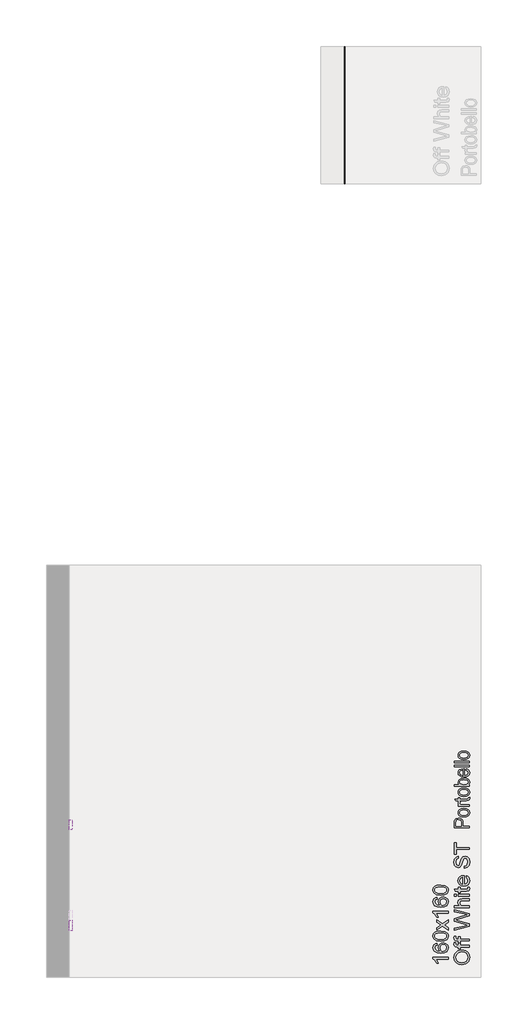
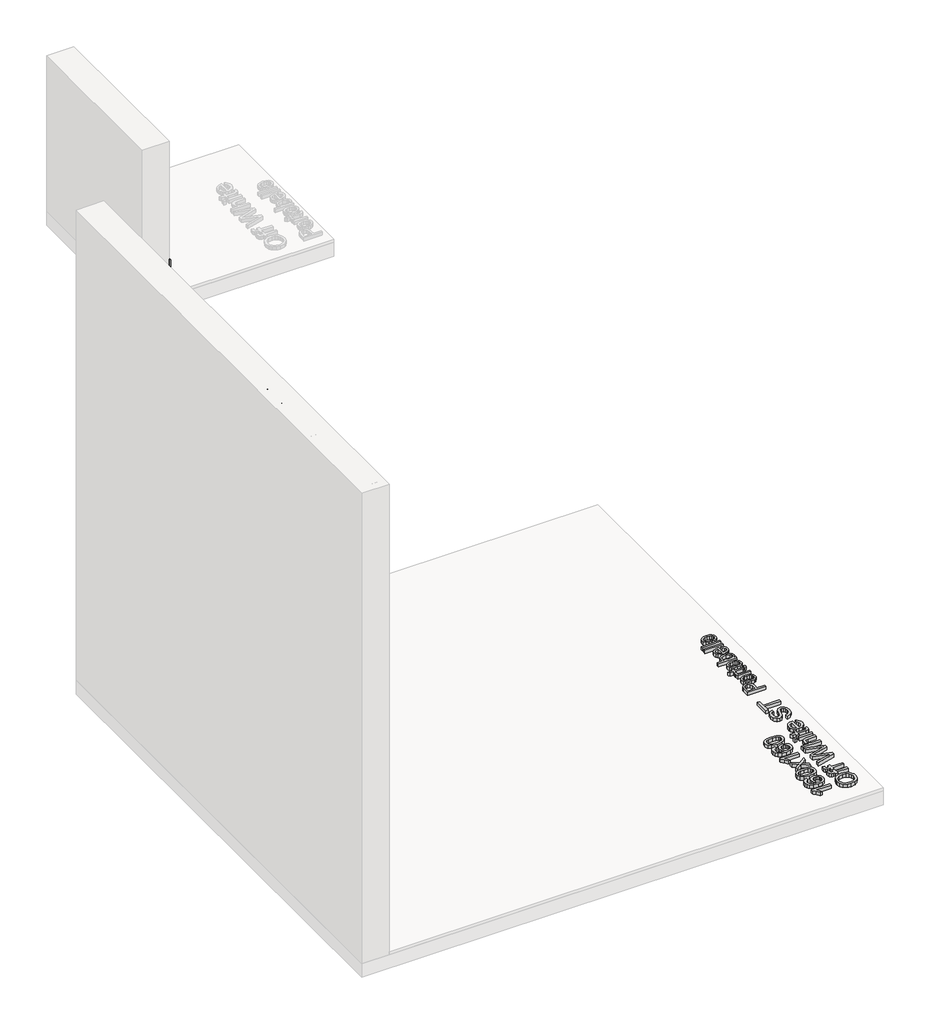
# One storey, part 15 of 19: 6 proxies.
"""IFC4 building model written with IfcOpenShell, lengths in millimetres."""

from ifc_helpers import new_model, si_unit, frame, origin, origin_with_axes, place, context, project, spatial, polyline, outline, extrude, element, save
from ifc_brep_helpers import plane_surface, extruded_surface, spline_curve, advanced_brep

model = new_model("IFC4")

# Units and contexts
model_context = context("Model", 3, world=origin())
ifc_project = project(units=[si_unit("LENGTHUNIT", "METRE", prefix="MILLI")], contexts=[model_context])

# Site, building, storey
site = spatial("IfcSite", under=ifc_project)
building = spatial("IfcBuilding", under=site)
storey = spatial("IfcBuildingStorey", under=building, Name="PORTOBELLO - SHOWROOM", Elevation=0.0)

# Proxies
placement = place(None, origin())
element("IfcBuildingElementProxy", 1, Name="RODAPE KALKS OFF WHITE 20X90 RD NAT RET", ObjectType="RODAPE KALKS OFF WHITE 20X90 RD NAT RET", at=placement, inside=storey, context=model_context, shape_type="AdvancedBrep", body=[
    advanced_brep(
    [(10705.7966975, 15203.6967801, 217.0), (10705.7966975, 15203.6967801, 17.0), (10713.7966975, 15203.6967801, 17.0), (10713.7966975, 15203.6967801, 209.0), (10705.7966975, 16103.6967801, 217.0), (10713.7966975, 16103.6967801, 209.0), (10713.7966975, 16103.6967801, 17.0), (10705.7966975, 16103.6967801, 17.0)],
    [
        (0, 1),
        (1, 2),
        (2, 3),
        (3, 0, spline_curve(3, [(10713.7966975, 15203.6967801, 209.0), (10713.7966975, 15203.6967801, 214.333333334), (10711.130030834, 15203.6967801, 217.0), (10705.7966975, 15203.6967801, 217.0)], [4, 4], [0.0, 0.029527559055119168])),
        (4, 5, spline_curve(3, [(10705.7966975, 16103.6967801, 217.0), (10711.130030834, 16103.6967801, 217.0), (10713.7966975, 16103.6967801, 214.333333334), (10713.7966975, 16103.6967801, 209.0)], [4, 4], [0.0, 0.029527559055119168])),
        (5, 6),
        (6, 7),
        (7, 4),
        (0, 4),
        (7, 1),
        (6, 2),
        (5, 3),
    ],
    [
        plane_surface(frame((10505.7966975, 15203.6967801, 17.0), z_axis=(0.0, -1.0, 0.0), x_axis=(0.0, 0.0, 1.0))),
        plane_surface(frame((10505.7966975, 16103.6967801, 17.0), z_axis=(0.0, 1.0, 0.0), x_axis=(0.0, 0.0, 1.0))),
        plane_surface(frame((10705.7966975, 15203.6967801, 217.0), z_axis=(-1.0, 0.0, 0.0), x_axis=(0.0, 1.0, 0.0))),
        plane_surface(frame((10705.7966975, 15203.6967801, 17.0), z_axis=(0.0, 0.0, -1.0), x_axis=(0.0, 1.0, 0.0))),
        plane_surface(frame((10713.7966975, 15203.6967801, 17.0), z_axis=(1.0, 0.0, 0.0), x_axis=(0.0, 1.0, 0.0))),
        extruded_surface(spline_curve(3, [(10713.7966975, 16103.6967801, 209.0), (10713.7966975, 16103.6967801, 214.333333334), (10711.130030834, 16103.6967801, 217.0), (10705.7966975, 16103.6967801, 217.0)], [4, 4], [0.0, 0.029527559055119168]), (0.0, -900.0, 0.0), 900.0),
    ],
    [
        (0, [[1, 2, 3, 4]]),
        (1, [[5, 6, 7, 8]]),
        (2, [[-1, 9, -8, 10]]),
        (3, [[-2, -10, -7, 11]]),
        (4, [[-3, -11, -6, 12]]),
        (5, [[-4, -12, -5, -9]]),
    ],
),
])
element("IfcBuildingElementProxy", 2, Name="10mm Arial", ObjectType="10mm Arial", at=placement, inside=storey, context=model_context, shape_type="SweptSolid", body=[
    extrude(outline(polyline([(11481.3212014, 10087.4843452), (11459.1072603, 10090.8320713), (11442.3011845, 10100.8752498), (11431.7245771, 10116.2097976), (11428.1990413, 10135.4316319), (11429.8545103, 10148.6079387), (11434.8209172, 10160.4230821), (11442.7487742, 10170.2332686), (11453.2885934, 10177.3947048), (11465.9314713, 10181.7725005), (11480.1685045, 10183.2317658), (11494.5956101, 10181.6958584), (11507.4162976, 10177.0881365), (11517.9745109, 10169.6630515), (11525.6141936, 10159.6750553), (11530.2495068, 10147.9610795), (11531.7946112, 10135.3580555), (11530.0870256, 10121.9794136), (11524.9642688, 10110.0968251), (11516.889259, 10100.3111641), (11506.3249144, 10093.2233043), (11481.3212014, 10087.4843452)]), holes=[polyline([(11481.4438288, 10100.0413839), (11497.1585213, 10102.5521785), (11509.1330803, 10110.0845624), (11516.7114494, 10121.4061308), (11519.2375724, 10135.2844791), (11516.6869239, 10149.3651624), (11509.0349784, 10160.7051249), (11496.6925375, 10168.1823265), (11480.0704026, 10170.674727), (11459.3463836, 10166.4072959), (11445.6243852, 10153.9360962), (11440.7560801, 10135.5052083), (11443.1013278, 10121.9978077), (11450.137071, 10110.5137581), (11462.6542558, 10102.6594775), (11481.4438288, 10100.0413839)])]), origin_with_axes(), (0.0, 0.0, 1.0), 20.0),
    extrude(outline(polyline([(11530.2249813, 10242.8776999), (11469.0094173, 10242.8776999), (11469.0094173, 10231.890291), (11456.4523785, 10231.890291), (11456.4523785, 10242.8776999), (11449.0211622, 10242.8776999), (11438.5487881, 10244.2020751), (11431.0685209, 10250.6277473), (11428.1990413, 10263.2828879), (11429.5724674, 10274.7362807), (11441.3446913, 10272.8968707), (11440.7560801, 10265.6618582), (11442.8407447, 10257.7523953), (11450.6153176, 10255.4347387), (11456.4523785, 10255.4347387), (11456.4523785, 10269.5614073), (11469.0094173, 10269.5614073), (11469.0094173, 10255.4347387), (11530.2249813, 10255.4347387), (11530.2249813, 10242.8776999)])), origin_with_axes(), (0.0, 0.0, 1.0), 20.0),
    extrude(outline(polyline([(11530.2249813, 10202.0673239), (11469.0094173, 10202.0673239), (11469.0094173, 10191.079915), (11456.4523785, 10191.079915), (11456.4523785, 10202.0673239), (11449.0211622, 10202.0673239), (11438.5487881, 10203.3916991), (11431.0685209, 10209.8173713), (11428.1990413, 10222.4725119), (11429.5724674, 10233.9259047), (11441.3446913, 10232.0864947), (11440.7560801, 10224.8514822), (11442.8407447, 10216.9420193), (11450.6153176, 10214.6243627), (11456.4523785, 10214.6243627), (11456.4523785, 10228.7510313), (11469.0094173, 10228.7510313), (11469.0094173, 10214.6243627), (11530.2249813, 10214.6243627), (11530.2249813, 10202.0673239)])), origin_with_axes(), (0.0, 0.0, 1.0), 20.0),
    extrude(outline(polyline([(11530.2249813, 10339.3363591), (11429.7686712, 10311.9414131), (11429.7686712, 10324.8908594), (11495.7912266, 10340.7833616), (11516.1718891, 10345.6884548), (11498.1456713, 10350.9369046), (11429.7686712, 10370.8515833), (11429.7686712, 10389.5154632), (11479.3346386, 10403.9854883), (11516.1718891, 10414.7521681), (11496.3798378, 10419.5101085), (11429.7686712, 10435.5252381), (11429.7686712, 10448.4992098), (11530.2249813, 10421.1287893), (11530.2249813, 10407.6888338), (11452.7245077, 10383.5803003), (11441.908777, 10380.2203115), (11454.9317996, 10376.4433896), (11530.2249813, 10354.4930973), (11530.2249813, 10339.3363591)])), origin_with_axes(), (0.0, 0.0, 1.0), 20.0),
    extrude(outline(polyline([(11530.2249813, 10459.4866187), (11429.7686712, 10459.4866187), (11429.7686712, 10472.0436574), (11466.7040235, 10472.0436574), (11457.8380674, 10481.8354499), (11454.8827487, 10493.895848), (11458.1078475, 10507.9979911), (11467.0228545, 10516.5573789), (11483.5284934, 10519.1325528), (11530.2249813, 10519.1325528), (11530.2249813, 10506.5755141), (11484.8283431, 10506.5755141), (11471.5845913, 10502.577863), (11467.4397875, 10491.2470976), (11470.2356906, 10480.9586645), (11477.8140597, 10474.0915339), (11491.0332861, 10472.0436574), (11530.2249813, 10472.0436574), (11530.2249813, 10459.4866187)])), origin_with_axes(), (0.0, 0.0, 1.0), 20.0),
    extrude(outline(polyline([(11442.3257099, 10536.3984811), (11429.7686712, 10536.3984811), (11429.7686712, 10548.9555199), (11442.3257099, 10548.9555199), (11442.3257099, 10536.3984811)])), origin_with_axes(), (0.0, 0.0, 1.0), 20.0),
    extrude(outline(polyline([(11530.2249813, 10536.3984811), (11456.4523785, 10536.3984811), (11456.4523785, 10548.9555199), (11530.2249813, 10548.9555199), (11530.2249813, 10536.3984811)])), origin_with_axes(), (0.0, 0.0, 1.0), 20.0),
    extrude(outline(polyline([(11519.7526072, 10594.4747854), (11530.5928633, 10596.0444153), (11531.7946112, 10586.6511617), (11529.7099465, 10576.1297366), (11524.2407675, 10570.8812868), (11509.9914716, 10569.3607079), (11469.0094173, 10569.3607079), (11469.0094173, 10559.9429288), (11456.4523785, 10559.9429288), (11456.4523785, 10569.3607079), (11438.5242626, 10569.3607079), (11431.1420973, 10581.9177467), (11456.4523785, 10581.9177467), (11456.4523785, 10594.4747854), (11469.0094173, 10594.4747854), (11469.0094173, 10581.9177467), (11509.6235896, 10581.9177467), (11516.0983127, 10582.5799343), (11518.3914438, 10584.7259126), (11519.2375724, 10589.0056064), (11519.7526072, 10594.4747854)])), origin_with_axes(), (0.0, 0.0, 1.0), 20.0),
    extrude(outline(polyline([(11508.2501635, 10658.6824563), (11509.8197933, 10670.9942404), (11519.096551, 10666.5581967), (11526.0311266, 10659.479534), (11530.35374, 10649.9176678), (11531.7946112, 10638.0320137), (11529.308342, 10623.2983398), (11521.8495346, 10611.9614429), (11509.9025668, 10604.7325617), (11493.9518166, 10602.3229347), (11477.4645718, 10604.7570872), (11465.1343936, 10612.0595448), (11457.4456599, 10623.2431575), (11454.8827487, 10637.3207751), (11457.4395286, 10650.9600001), (11465.1098682, 10661.8585042), (11477.4155209, 10669.004612), (11493.8782402, 10671.3866479), (11497.2627545, 10671.3130715), (11497.2627545, 10614.8799734), (11506.6621395, 10617.0535429), (11513.5721897, 10622.1027233), (11517.8212267, 10629.3898525), (11519.2375724, 10638.2772683), (11516.6133475, 10650.5890524), (11508.2501635, 10658.6824563)]), holes=[polyline([(11484.7057158, 10614.8799734), (11484.7057158, 10658.8296091), (11473.3258994, 10653.8018885), (11468.9113155, 10646.4810368), (11467.4397875, 10637.2717242), (11472.1364143, 10621.8084177), (11477.6270531, 10616.9431783), (11484.7057158, 10614.8799734)])]), origin_with_axes(), (0.0, 0.0, 1.0), 20.0),
    extrude(outline(polyline([(11495.6931247, 10720.0451731), (11495.6931247, 10732.6022119), (11508.2624262, 10736.6489138), (11516.2086773, 10746.5326768), (11519.2375724, 10761.5913131), (11516.9444413, 10774.7124376), (11510.6413964, 10783.1859862), (11502.2168987, 10785.9696267), (11494.3810122, 10783.884962), (11488.6788413, 10775.3500997), (11483.8841127, 10757.0663646), (11477.6914324, 10737.3846778), (11468.3472297, 10726.7038372), (11455.8637674, 10723.1844328), (11441.6512596, 10727.5377031), (11431.6203439, 10740.2541574), (11428.1990413, 10758.8689864), (11431.7797594, 10778.7346141), (11442.3011845, 10791.9783659), (11458.0220084, 10796.9570356), (11458.0220084, 10784.3999968), (11450.5294784, 10782.094603), (11445.1216131, 10777.2876116), (11440.7560801, 10759.3594957), (11445.0725622, 10741.3823289), (11455.4958854, 10735.7414716), (11464.2024259, 10739.7391226), (11471.2167093, 10760.2424125), (11477.5197541, 10782.462485), (11487.6978227, 10794.6148536), (11501.8980677, 10798.5266654), (11516.9199158, 10794.0262424), (11527.8827993, 10781.0767961), (11531.7946112, 10762.0818224), (11527.5762309, 10739.6532835), (11514.8720394, 10725.4653012), (11495.6931247, 10720.0451731)])), origin_with_axes(), (0.0, 0.0, 1.0), 20.0),
    extrude(outline(polyline([(11530.2249813, 10842.4763011), (11442.3257099, 10842.4763011), (11442.3257099, 10809.5140744), (11429.7686712, 10809.5140744), (11429.7686712, 10887.9955667), (11442.3257099, 10887.9955667), (11442.3257099, 10855.0333399), (11530.2249813, 10855.0333399), (11530.2249813, 10842.4763011)])), origin_with_axes(), (0.0, 0.0, 1.0), 20.0),
])
element("IfcBuildingElementProxy", 3, Name="10mm Arial", ObjectType="10mm Arial", at=placement, inside=storey, context=model_context, shape_type="SweptSolid", body=[
    extrude(outline(polyline([(10131.2162385, 2381.1895903), (10118.6591997, 2381.1895903), (10118.6591997, 2459.4748789), (10106.7643485, 2451.0013303), (10093.5451221, 2444.6614972), (10093.5451221, 2456.531823), (10111.9514846, 2468.2795213), (10123.1228346, 2481.6459005), (10131.2162385, 2481.6459005), (10131.2162385, 2381.1895903)])), frame((8905.7966975, 0.0, 0.0), z_axis=(1.0, 0.0, 0.0), x_axis=(0.0, 1.0, 0.0)), (0.0, 0.0, 1.0), 20.0),
    extrude(outline(polyline([(10225.3940292, 2454.9621931), (10212.8369905, 2453.3925633), (10208.07905, 2463.8649374), (10195.4974857, 2469.0888617), (10184.1667203, 2466.0477039), (10175.5950698, 2454.6310993), (10172.0266145, 2432.2516113), (10183.0998625, 2442.2702643), (10196.8218609, 2445.544414), (10208.4224065, 2443.3064652), (10218.1590166, 2436.5926188), (10224.7624985, 2426.3348425), (10226.9636591, 2413.4651041), (10222.8188553, 2396.1378621), (10211.4145134, 2383.8751289), (10194.9579255, 2379.6199605), (10180.7116952, 2382.4403891), (10169.3656014, 2390.901675), (10161.9435821, 2405.837684), (10159.4695757, 2428.082282), (10162.2164279, 2453.0921263), (10170.4569846, 2470.1925077), (10181.7080423, 2478.7825523), (10196.2823007, 2481.6459005), (10207.3003664, 2479.8739355), (10216.1234029, 2474.5580407), (10222.3038205, 2466.1151489), (10225.3940292, 2454.9621931)]), holes=[polyline([(10172.0266145, 2413.6613078), (10174.9328822, 2402.7842635), (10182.6584041, 2394.8870633), (10193.9769068, 2392.1769993), (10202.2634488, 2393.5810822), (10208.7780258, 2397.7933311), (10212.9994717, 2404.415207), (10214.4066203, 2413.0481711), (10213.0178658, 2421.3347131), (10208.8516022, 2427.6530863), (10202.2266606, 2431.653803), (10193.461872, 2432.9873753), (10178.2683456, 2427.6530863), (10173.5870472, 2421.4879972), (10172.0266145, 2413.6613078)])]), frame((8905.7966975, 0.0, 0.0), z_axis=(1.0, 0.0, 0.0), x_axis=(0.0, 1.0, 0.0)), (0.0, 0.0, 1.0), 20.0),
    extrude(outline(polyline([(10237.951068, 2430.608405), (10241.6421507, 2459.5116671), (10252.6050341, 2476.1767215), (10270.9132948, 2481.6459005), (10285.5795236, 2478.4085389), (10295.7085412, 2469.076599), (10301.5946532, 2454.2141664), (10303.8755215, 2430.608405), (10300.221227, 2401.8277703), (10289.2951318, 2385.1259277), (10281.0637721, 2380.9964523), (10270.9132948, 2379.6199605), (10257.8657467, 2382.0111935), (10247.9574583, 2389.1848924), (10240.4526656, 2406.1749092), (10237.951068, 2430.608405)]), holes=[polyline([(10250.5081068, 2430.6329305), (10251.9796347, 2410.880733), (10256.3942187, 2399.4488), (10262.9670437, 2393.9949495), (10270.9132948, 2392.1769993), (10278.8595459, 2394.0010808), (10285.4323708, 2399.4733255), (10289.8469548, 2410.9113899), (10291.3184828, 2430.6329305), (10289.8960057, 2449.9406039), (10285.6285746, 2461.4614417), (10279.0680123, 2467.1820067), (10270.766142, 2469.0888617), (10262.90573, 2467.4088673), (10256.5904224, 2462.3688839), (10252.0286857, 2450.1306762), (10250.5081068, 2430.6329305)])]), frame((8905.7966975, 0.0, 0.0), z_axis=(1.0, 0.0, 0.0), x_axis=(0.0, 1.0, 0.0)), (0.0, 0.0, 1.0), 20.0),
    extrude(outline(polyline([(10310.1540409, 2381.1895903), (10336.9849011, 2418.2966209), (10311.7236708, 2454.9621931), (10326.7823071, 2454.9621931), (10338.9714639, 2437.2793319), (10344.6858975, 2428.9651988), (10349.6400417, 2435.7832784), (10363.5214557, 2454.9621931), (10378.6291429, 2454.9621931), (10352.0925884, 2418.2720955), (10377.6481243, 2381.1895903), (10362.5649625, 2381.1895903), (10347.1629696, 2403.5077647), (10344.3670665, 2407.6035176), (10325.2617282, 2381.1895903), (10310.1540409, 2381.1895903)])), frame((8905.7966975, 0.0, 0.0), z_axis=(1.0, 0.0, 0.0), x_axis=(0.0, 1.0, 0.0)), (0.0, 0.0, 1.0), 20.0),
    extrude(outline(polyline([(10432.5851689, 2381.1895903), (10420.0281301, 2381.1895903), (10420.0281301, 2459.4748789), (10408.133279, 2451.0013303), (10394.9140526, 2444.6614972), (10394.9140526, 2456.531823), (10413.3204151, 2468.2795213), (10424.491765, 2481.6459005), (10432.5851689, 2481.6459005), (10432.5851689, 2381.1895903)])), frame((8905.7966975, 0.0, 0.0), z_axis=(1.0, 0.0, 0.0), x_axis=(0.0, 1.0, 0.0)), (0.0, 0.0, 1.0), 20.0),
    extrude(outline(polyline([(10526.7629597, 2454.9621931), (10514.2059209, 2453.3925633), (10509.4479804, 2463.8649374), (10496.8664162, 2469.0888617), (10485.5356507, 2466.0477039), (10476.9640003, 2454.6310993), (10473.3955449, 2432.2516113), (10484.468793, 2442.2702643), (10498.1907914, 2445.544414), (10509.791337, 2443.3064652), (10519.5279471, 2436.5926188), (10526.1314289, 2426.3348425), (10528.3325895, 2413.4651041), (10524.1877857, 2396.1378621), (10512.7834439, 2383.8751289), (10496.3268559, 2379.6199605), (10482.0806257, 2382.4403891), (10470.7345318, 2390.901675), (10463.3125126, 2405.837684), (10460.8385061, 2428.082282), (10463.5853584, 2453.0921263), (10471.8259151, 2470.1925077), (10483.0769727, 2478.7825523), (10497.6512311, 2481.6459005), (10508.6692969, 2479.8739355), (10517.4923334, 2474.5580407), (10523.6727509, 2466.1151489), (10526.7629597, 2454.9621931)]), holes=[polyline([(10473.3955449, 2413.6613078), (10476.3018127, 2402.7842635), (10484.0273346, 2394.8870633), (10495.3458373, 2392.1769993), (10503.6323792, 2393.5810822), (10510.1469562, 2397.7933311), (10514.3684021, 2404.415207), (10515.7755507, 2413.0481711), (10514.3867962, 2421.3347131), (10510.2205326, 2427.6530863), (10503.595591, 2431.653803), (10494.8308025, 2432.9873753), (10479.6372761, 2427.6530863), (10474.9559777, 2421.4879972), (10473.3955449, 2413.6613078)])]), frame((8905.7966975, 0.0, 0.0), z_axis=(1.0, 0.0, 0.0), x_axis=(0.0, 1.0, 0.0)), (0.0, 0.0, 1.0), 20.0),
    extrude(outline(polyline([(10539.3199984, 2430.608405), (10543.0110811, 2459.5116671), (10553.9739646, 2476.1767215), (10572.2822252, 2481.6459005), (10586.9484541, 2478.4085389), (10597.0774717, 2469.076599), (10602.9635836, 2454.2141664), (10605.244452, 2430.608405), (10601.5901575, 2401.8277703), (10590.6640622, 2385.1259277), (10582.4327026, 2380.9964523), (10572.2822252, 2379.6199605), (10559.2346771, 2382.0111935), (10549.3263887, 2389.1848924), (10541.821596, 2406.1749092), (10539.3199984, 2430.608405)]), holes=[polyline([(10551.8770372, 2430.6329305), (10553.3485652, 2410.880733), (10557.7631491, 2399.4488), (10564.3359741, 2393.9949495), (10572.2822252, 2392.1769993), (10580.2284763, 2394.0010808), (10586.8013013, 2399.4733255), (10591.2158852, 2410.9113899), (10592.6874132, 2430.6329305), (10591.2649362, 2449.9406039), (10586.997505, 2461.4614417), (10580.4369428, 2467.1820067), (10572.1350724, 2469.0888617), (10564.2746604, 2467.4088673), (10557.9593529, 2462.3688839), (10553.3976161, 2450.1306762), (10551.8770372, 2430.6329305)])]), frame((8905.7966975, 0.0, 0.0), z_axis=(1.0, 0.0, 0.0), x_axis=(0.0, 1.0, 0.0)), (0.0, 0.0, 1.0), 20.0),
])
element("IfcBuildingElementProxy", 4, Name="10mm Arial", ObjectType="10mm Arial", at=placement, inside=storey, context=model_context, shape_type="SweptSolid", body=[
    extrude(outline(polyline([(11390.2249813, 10134.5732405), (11390.2249813, 10122.0162018), (11311.9396927, 10122.0162018), (11320.4132414, 10110.1213506), (11326.7530744, 10096.9021242), (11314.8827487, 10096.9021242), (11303.1350503, 10115.3084867), (11289.7686712, 10126.4798366), (11289.7686712, 10134.5732405), (11390.2249813, 10134.5732405)])), origin_with_axes(), (0.0, 0.0, 1.0), 20.0),
    extrude(outline(polyline([(11316.4523785, 10228.7510313), (11318.0220084, 10216.1939925), (11307.5496343, 10211.4360521), (11302.3257099, 10198.8544878), (11305.3668678, 10187.5237224), (11316.7834723, 10178.9520719), (11339.1629604, 10175.3836165), (11329.1443074, 10186.4568646), (11325.8701576, 10200.178863), (11328.1081064, 10211.7794086), (11334.8219528, 10221.5160187), (11345.0797291, 10228.1195005), (11357.9494676, 10230.3206612), (11375.2767096, 10226.1758573), (11387.5394427, 10214.7715155), (11391.7946112, 10198.3149276), (11388.9741825, 10184.0686973), (11380.5128966, 10172.7226034), (11365.5768876, 10165.3005842), (11343.3322897, 10162.8265778), (11318.3224454, 10165.57343), (11301.2220639, 10173.8139867), (11292.6320194, 10185.0650444), (11289.7686712, 10199.6393028), (11291.5406361, 10210.6573685), (11296.8565309, 10219.480405), (11305.2994227, 10225.6608225), (11316.4523785, 10228.7510313)]), holes=[polyline([(11357.7532639, 10175.3836165), (11368.6303082, 10178.2898843), (11376.5275084, 10186.0154062), (11379.2375724, 10197.3339089), (11377.8334894, 10205.6204509), (11373.6212406, 10212.1350279), (11366.9993647, 10216.3564738), (11358.3664005, 10217.7636224), (11350.0798586, 10216.3748679), (11343.7614853, 10212.2086043), (11339.7607686, 10205.5836627), (11338.4271964, 10196.8188741), (11343.7614853, 10181.6253477), (11349.9265744, 10176.9440493), (11357.7532639, 10175.3836165)])]), origin_with_axes(), (0.0, 0.0, 1.0), 20.0),
    extrude(outline(polyline([(11340.8061666, 10241.3080701), (11311.9029045, 10244.9991528), (11295.2378502, 10255.9620362), (11289.7686712, 10274.2702968), (11293.0060327, 10288.9365257), (11302.3379727, 10299.0655433), (11317.2004053, 10304.9516552), (11340.8061666, 10307.2325236), (11369.5868014, 10303.5782291), (11386.288644, 10292.6521339), (11390.4181194, 10284.4207742), (11391.7946112, 10274.2702968), (11389.4033782, 10261.2227487), (11382.2296793, 10251.3144603), (11365.2396625, 10243.8096676), (11340.8061666, 10241.3080701)]), holes=[polyline([(11340.7816412, 10253.8651088), (11360.5338386, 10255.3366368), (11371.9657716, 10259.7512208), (11377.4196222, 10266.3240457), (11379.2375724, 10274.2702968), (11377.4134908, 10282.2165479), (11371.9412462, 10288.7893729), (11360.5031818, 10293.2039569), (11340.7816412, 10294.6754848), (11321.4739678, 10293.2530078), (11309.95313, 10288.9855766), (11304.2325649, 10282.4250144), (11302.3257099, 10274.123144), (11304.0057044, 10266.2627321), (11309.0456877, 10259.9474245), (11321.2838954, 10255.3856878), (11340.7816412, 10253.8651088)])]), origin_with_axes(), (0.0, 0.0, 1.0), 20.0),
    extrude(outline(polyline([(11390.2249813, 10313.511043), (11353.1179507, 10340.3419032), (11316.4523785, 10315.0806728), (11316.4523785, 10330.1393092), (11334.1352398, 10342.328466), (11342.4493729, 10348.0428996), (11335.6312932, 10352.9970438), (11316.4523785, 10366.8784578), (11316.4523785, 10381.986145), (11353.1424762, 10355.4495904), (11390.2249813, 10381.0051264), (11390.2249813, 10365.9219646), (11367.9068069, 10350.5199717), (11363.8110541, 10347.7240685), (11390.2249813, 10328.6187303), (11390.2249813, 10313.511043)])), origin_with_axes(), (0.0, 0.0, 1.0), 20.0),
    extrude(outline(polyline([(11390.2249813, 10435.942171), (11390.2249813, 10423.3851322), (11311.9396927, 10423.3851322), (11320.4132414, 10411.490281), (11326.7530744, 10398.2710547), (11314.8827487, 10398.2710547), (11303.1350503, 10416.6774172), (11289.7686712, 10427.8487671), (11289.7686712, 10435.942171), (11390.2249813, 10435.942171)])), origin_with_axes(), (0.0, 0.0, 1.0), 20.0),
    extrude(outline(polyline([(11316.4523785, 10530.1199618), (11318.0220084, 10517.562923), (11307.5496343, 10512.8049825), (11302.3257099, 10500.2234183), (11305.3668678, 10488.8926528), (11316.7834723, 10480.3210023), (11339.1629604, 10476.752547), (11329.1443074, 10487.825795), (11325.8701576, 10501.5477935), (11328.1081064, 10513.148339), (11334.8219528, 10522.8849492), (11345.0797291, 10529.488431), (11357.9494676, 10531.6895916), (11375.2767096, 10527.5447878), (11387.5394427, 10516.1404459), (11391.7946112, 10499.683858), (11388.9741825, 10485.4376278), (11380.5128966, 10474.0915339), (11365.5768876, 10466.6695146), (11343.3322897, 10464.1955082), (11318.3224454, 10466.9423605), (11301.2220639, 10475.1829171), (11292.6320194, 10486.4339748), (11289.7686712, 10501.0082332), (11291.5406361, 10512.026299), (11296.8565309, 10520.8493355), (11305.2994227, 10527.029753), (11316.4523785, 10530.1199618)]), holes=[polyline([(11357.7532639, 10476.752547), (11368.6303082, 10479.6588148), (11376.5275084, 10487.3843366), (11379.2375724, 10498.7028394), (11377.8334894, 10506.9893813), (11373.6212406, 10513.5039583), (11366.9993647, 10517.7254042), (11358.3664005, 10519.1325528), (11350.0798586, 10517.7437983), (11343.7614853, 10513.5775347), (11339.7607686, 10506.9525931), (11338.4271964, 10498.1878046), (11343.7614853, 10482.9942782), (11349.9265744, 10478.3129798), (11357.7532639, 10476.752547)])]), origin_with_axes(), (0.0, 0.0, 1.0), 20.0),
    extrude(outline(polyline([(11340.8061666, 10542.6770005), (11311.9029045, 10546.3680832), (11295.2378502, 10557.3309667), (11289.7686712, 10575.6392273), (11293.0060327, 10590.3054562), (11302.3379727, 10600.4344738), (11317.2004053, 10606.3205857), (11340.8061666, 10608.6014541), (11369.5868014, 10604.9471596), (11386.288644, 10594.0210643), (11390.4181194, 10585.7897047), (11391.7946112, 10575.6392273), (11389.4033782, 10562.5916792), (11382.2296793, 10552.6833908), (11365.2396625, 10545.1785981), (11340.8061666, 10542.6770005)]), holes=[polyline([(11340.7816412, 10555.2340393), (11360.5338386, 10556.7055673), (11371.9657716, 10561.1201512), (11377.4196222, 10567.6929762), (11379.2375724, 10575.6392273), (11377.4134908, 10583.5854784), (11371.9412462, 10590.1583034), (11360.5031818, 10594.5728873), (11340.7816412, 10596.0444153), (11321.4739678, 10594.6219382), (11309.95313, 10590.3545071), (11304.2325649, 10583.7939449), (11302.3257099, 10575.4920745), (11304.0057044, 10567.6316625), (11309.0456877, 10561.3163549), (11321.2838954, 10556.7546182), (11340.7816412, 10555.2340393)])]), origin_with_axes(), (0.0, 0.0, 1.0), 20.0),
])
element("IfcBuildingElementProxy", 5, Name="10mm Arial Narrow", ObjectType="10mm Arial Narrow", at=placement, inside=storey, context=model_context, shape_type="SweptSolid", body=[
    extrude(outline(polyline([(11530.2249813, 10984.5071343), (11429.5063776, 10984.5071343), (11429.5063776, 11015.804019), (11431.3846983, 11032.0997205), (11440.8651415, 11043.5727066), (11457.8842503, 11047.8623851), (11469.9600758, 11046.0760767), (11479.5864696, 11040.7171515), (11485.887728, 11030.9733626), (11487.9881475, 11016.0324634), (11487.9881475, 10994.254096), (11530.2249813, 10994.254096), (11530.2249813, 10984.5071343)]), holes=[polyline([(11476.6166922, 10994.254096), (11476.6166922, 11017.2254509), (11472.085878, 11033.0896463), (11458.4172873, 11038.1154234), (11448.2515108, 11035.6406089), (11442.451561, 11029.6629801), (11440.8778328, 11016.9970065), (11440.8778328, 10994.254096), (11476.6166922, 10994.254096)])]), origin_with_axes(), (0.0, 0.0, 1.0), 20.0),
    extrude(outline(polyline([(11493.6738751, 11055.9848531), (11477.0830996, 11057.939322), (11465.1310147, 11063.8027286), (11457.9064602, 11072.6612953), (11455.4982753, 11083.6012445), (11457.9064602, 11094.4142801), (11465.1310147, 11103.2982295), (11476.8927292, 11109.2377842), (11492.9123937, 11111.2176358), (11510.0742803, 11109.2726855), (11522.2167355, 11103.4378344), (11529.4412901, 11094.5887862), (11531.8494749, 11083.6012445), (11529.4349444, 11072.7406163), (11522.1913528, 11063.8661854), (11510.2329223, 11057.9551862), (11493.6738751, 11055.9848531)]), holes=[polyline([(11493.6484924, 11065.7318148), (11506.2002438, 11067.0358516), (11515.0715019, 11070.9479622), (11520.3447604, 11076.789159), (11522.1025133, 11083.8804543), (11520.3288962, 11090.6005275), (11515.0080451, 11096.2926008), (11506.1209228, 11100.1761558), (11493.6484924, 11101.4706742), (11481.1348151, 11100.1666373), (11472.2762484, 11096.2545267), (11467.0029898, 11090.41333), (11465.245237, 11083.3220346), (11467.0125083, 11076.5543689), (11472.3143224, 11070.8718141), (11481.1824077, 11067.0168146), (11493.6484924, 11065.7318148)])]), origin_with_axes(), (0.0, 0.0, 1.0), 20.0),
    extrude(outline(polyline([(11522.1025133, 11182.6953546), (11531.8494749, 11184.3198482), (11531.8494749, 11176.9588616), (11529.7300184, 11168.6840972), (11523.9300686, 11164.3690361), (11509.2842434, 11163.2014313), (11466.8697306, 11163.2014313), (11466.8697306, 11155.0789633), (11463.6207433, 11155.0789633), (11468.4942242, 11153.4544697), (11466.8697306, 11145.8904213), (11469.1922488, 11139.8112616), (11475.6775319, 11135.9403979), (11491.0848384, 11133.9605463), (11530.2249813, 11133.9605463), (11530.2249813, 11124.2135847), (11457.1227689, 11124.2135847), (11457.1227689, 11133.9605463), (11466.8189651, 11133.9605463), (11457.731954, 11140.2046937), (11455.4982753, 11146.6011372), (11457.1227689, 11155.0789633), (11457.1227689, 11163.2014313), (11440.8778328, 11163.2014313), (11432.7553648, 11172.948393), (11457.1227689, 11172.948393), (11457.1227689, 11182.6953546), (11466.8697306, 11182.6953546), (11466.8697306, 11172.948393), (11511.5179221, 11172.948393), (11519.5134766, 11173.8114052), (11522.1025133, 11178.4310589), (11522.1025133, 11182.6953546)])), origin_with_axes(), (0.0, 0.0, 1.0), 20.0),
    extrude(outline(polyline([(11493.6738751, 11189.193329), (11477.0830996, 11191.1477979), (11465.1310147, 11197.0112045), (11457.9064602, 11205.8697713), (11455.4982753, 11216.8097204), (11457.9064602, 11227.622756), (11465.1310147, 11236.5067054), (11476.8927292, 11242.4462602), (11492.9123937, 11244.4261118), (11510.0742803, 11242.4811614), (11522.2167355, 11236.6463103), (11529.4412901, 11227.7972621), (11531.8494749, 11216.8097204), (11529.4349444, 11205.9490922), (11522.1913528, 11197.0746613), (11510.2329223, 11191.1636621), (11493.6738751, 11189.193329)]), holes=[polyline([(11493.6484924, 11198.9402907), (11506.2002438, 11200.2443276), (11515.0715019, 11204.1564381), (11520.3447604, 11209.9976349), (11522.1025133, 11217.0889302), (11520.3288962, 11223.8090034), (11515.0080451, 11229.5010767), (11506.1209228, 11233.3846318), (11493.6484924, 11234.6791501), (11481.1348151, 11233.3751132), (11472.2762484, 11229.4630027), (11467.0029898, 11223.6218059), (11465.245237, 11216.5305106), (11467.0125083, 11209.7628448), (11472.3143224, 11204.08029), (11481.1824077, 11200.2252905), (11493.6484924, 11198.9402907)])]), origin_with_axes(), (0.0, 0.0, 1.0), 20.0),
    extrude(outline(polyline([(11530.2249813, 11267.1690223), (11530.2249813, 11257.4220606), (11429.5063776, 11257.4220606), (11429.5063776, 11267.1690223), (11464.9152617, 11267.1690223), (11457.8334849, 11274.568083), (11455.4982753, 11283.7693163), (11459.6991142, 11296.651043), (11472.4285446, 11305.9284245), (11493.1154554, 11309.4058561), (11509.5697989, 11307.4735971), (11521.772538, 11301.6768201), (11529.3302407, 11293.3036978), (11531.8494749, 11283.6424028), (11529.2350555, 11274.3015645), (11521.4679455, 11267.1690223), (11530.2249813, 11267.1690223)]), holes=[polyline([(11493.1154554, 11267.1690223), (11510.3630087, 11269.2504047), (11519.0946618, 11275.139194), (11522.1025133, 11283.5916374), (11520.313032, 11289.534365), (11514.9445883, 11294.7727223), (11493.5215788, 11299.6588945), (11472.085878, 11294.9504013), (11466.9553972, 11289.7056983), (11465.245237, 11283.3885757), (11467.0347182, 11277.4109468), (11472.4031619, 11272.1186512), (11493.1154554, 11267.1690223)])]), origin_with_axes(), (0.0, 0.0, 1.0), 20.0),
    extrude(outline(polyline([(11507.4820708, 11361.3896516), (11509.1065644, 11371.1366132), (11518.993131, 11367.4370829), (11526.1129819, 11361.618096), (11530.4153517, 11353.9144427), (11531.8494749, 11344.5609131), (11529.4349444, 11332.9673591), (11522.1913528, 11323.8232369), (11510.3852185, 11317.8836821), (11494.2830602, 11315.9038305), (11477.6161365, 11317.8932006), (11465.4356073, 11323.861311), (11457.9826083, 11332.8753468), (11455.4982753, 11344.0024934), (11457.8969416, 11354.6854426), (11465.0929407, 11363.43296), (11476.8324453, 11369.267811), (11492.8616283, 11371.2127614), (11496.1106155, 11371.1366132), (11496.1106155, 11325.6507922), (11515.5537734, 11331.6538037), (11520.4653283, 11337.58384), (11522.1025133, 11344.6878267), (11518.4474026, 11354.8662944), (11507.4820708, 11361.3896516)]), holes=[polyline([(11486.3636539, 11326.3107427), (11486.3636539, 11361.3896516), (11472.0985694, 11357.1253559), (11466.9585701, 11351.3000233), (11465.245237, 11344.0786416), (11470.9563473, 11331.8695568), (11486.3636539, 11326.3107427)])]), origin_with_axes(), (0.0, 0.0, 1.0), 20.0),
    extrude(outline(polyline([(11530.2249813, 11384.1325621), (11429.5063776, 11384.1325621), (11429.5063776, 11393.8795238), (11530.2249813, 11393.8795238), (11530.2249813, 11384.1325621)])), origin_with_axes(), (0.0, 0.0, 1.0), 20.0),
    extrude(outline(polyline([(11530.2249813, 11410.1244599), (11429.5063776, 11410.1244599), (11429.5063776, 11419.8714215), (11530.2249813, 11419.8714215), (11530.2249813, 11410.1244599)])), origin_with_axes(), (0.0, 0.0, 1.0), 20.0),
    extrude(outline(polyline([(11493.6738751, 11431.2428768), (11477.0830996, 11433.1973456), (11465.1310147, 11439.0607523), (11457.9064602, 11447.919319), (11455.4982753, 11458.8592681), (11457.9064602, 11469.6723037), (11465.1310147, 11478.5562531), (11476.8927292, 11484.4958079), (11492.9123937, 11486.4756595), (11510.0742803, 11484.5307091), (11522.2167355, 11478.6958581), (11529.4412901, 11469.8468099), (11531.8494749, 11458.8592681), (11529.4349444, 11447.99864), (11522.1913528, 11439.1242091), (11510.2329223, 11433.2132098), (11493.6738751, 11431.2428768)]), holes=[polyline([(11493.6484924, 11440.9898384), (11506.2002438, 11442.2938753), (11515.0715019, 11446.2059859), (11520.3447604, 11452.0471826), (11522.1025133, 11459.138478), (11520.3288962, 11465.8585511), (11515.0080451, 11471.5506244), (11506.1209228, 11475.4341795), (11493.6484924, 11476.7286978), (11481.1348151, 11475.424661), (11472.2762484, 11471.5125504), (11467.0029898, 11465.6713536), (11465.245237, 11458.5800583), (11467.0125083, 11451.8123925), (11472.3143224, 11446.1298377), (11481.1824077, 11442.2748383), (11493.6484924, 11440.9898384)])]), origin_with_axes(), (0.0, 0.0, 1.0), 20.0),
])
element("IfcBuildingElementProxy", 6, Name="10mm Arial Narrow", ObjectType="10mm Arial Narrow", at=placement, inside=storey, context=model_context, shape_type="SweptSolid", body=[
    extrude(outline(polyline([(10972.6220562, 2516.1895903), (10972.6220562, 2616.9081941), (11003.9189409, 2616.9081941), (11020.2146424, 2615.0298734), (11031.6876285, 2605.5494302), (11035.9773069, 2588.5303214), (11034.1909985, 2576.4544958), (11028.8320733, 2566.8281021), (11019.0882845, 2560.5268436), (11004.1473853, 2558.4264242), (10982.3690178, 2558.4264242), (10982.3690178, 2516.1895903), (10972.6220562, 2516.1895903)]), holes=[polyline([(10982.3690178, 2569.7978794), (11005.3403728, 2569.7978794), (11021.2045682, 2574.3286936), (11026.2303453, 2587.9972844), (11023.7555308, 2598.1630608), (11017.777902, 2603.9630106), (11005.1119283, 2605.5367388), (10982.3690178, 2605.5367388), (10982.3690178, 2569.7978794)])]), frame((8905.7966975, 0.0, 0.0), z_axis=(1.0, 0.0, 0.0), x_axis=(0.0, 1.0, 0.0)), (0.0, 0.0, 1.0), 20.0),
    extrude(outline(polyline([(11044.099775, 2552.7406965), (11046.0542438, 2569.3314721), (11051.9176505, 2581.2835569), (11060.7762172, 2588.5081115), (11071.7161663, 2590.9162964), (11082.5292019, 2588.5081115), (11091.4131513, 2581.2835569), (11097.3527061, 2569.5218424), (11099.3325577, 2553.5021779), (11097.3876073, 2536.3402913), (11091.5527562, 2524.1978362), (11082.703708, 2516.9732816), (11071.7161663, 2514.5650967), (11060.8555381, 2516.9796273), (11051.9811072, 2524.2232189), (11046.070108, 2536.1816494), (11044.099775, 2552.7406965)]), holes=[polyline([(11053.8467366, 2552.7660793), (11055.1507735, 2540.2143279), (11059.0628841, 2531.3430698), (11064.9040808, 2526.0698112), (11071.9953762, 2524.3120584), (11078.7154493, 2526.0856754), (11084.4075226, 2531.4065266), (11088.2910777, 2540.2936488), (11089.585596, 2552.7660793), (11088.2815591, 2565.2797566), (11084.3694486, 2574.1383233), (11078.5282518, 2579.4115818), (11071.4369565, 2581.1693347), (11064.6692907, 2579.4020633), (11058.9867359, 2574.1002492), (11055.1317364, 2565.232164), (11053.8467366, 2552.7660793)])]), frame((8905.7966975, 0.0, 0.0), z_axis=(1.0, 0.0, 0.0), x_axis=(0.0, 1.0, 0.0)), (0.0, 0.0, 1.0), 20.0),
    extrude(outline(polyline([(11170.8102765, 2524.3120584), (11172.4347701, 2514.5650967), (11165.0737834, 2514.5650967), (11156.7990191, 2516.6845532), (11152.4839579, 2522.4845031), (11151.3163532, 2537.1303283), (11151.3163532, 2579.5448411), (11143.1938851, 2579.5448411), (11143.1938851, 2582.7938283), (11141.5693915, 2577.9203475), (11134.0053431, 2579.5448411), (11127.9261835, 2577.2223229), (11124.0553198, 2570.7370398), (11122.0754682, 2555.3297332), (11122.0754682, 2516.1895903), (11112.3285065, 2516.1895903), (11112.3285065, 2589.2918027), (11122.0754682, 2589.2918027), (11122.0754682, 2579.5956065), (11128.3196155, 2588.6826176), (11134.7160591, 2590.9162964), (11143.1938851, 2589.2918027), (11151.3163532, 2589.2918027), (11151.3163532, 2605.5367388), (11161.0633148, 2613.6592069), (11161.0633148, 2589.2918027), (11170.8102765, 2589.2918027), (11170.8102765, 2579.5448411), (11161.0633148, 2579.5448411), (11161.0633148, 2534.8966496), (11161.926327, 2526.9010951), (11166.5459807, 2524.3120584), (11170.8102765, 2524.3120584)])), frame((8905.7966975, 0.0, 0.0), z_axis=(1.0, 0.0, 0.0), x_axis=(0.0, 1.0, 0.0)), (0.0, 0.0, 1.0), 20.0),
    extrude(outline(polyline([(11177.3082509, 2552.7406965), (11179.2627198, 2569.3314721), (11185.1261264, 2581.2835569), (11193.9846931, 2588.5081115), (11204.9246422, 2590.9162964), (11215.7376778, 2588.5081115), (11224.6216273, 2581.2835569), (11230.561182, 2569.5218424), (11232.5410336, 2553.5021779), (11230.5960832, 2536.3402913), (11224.7612322, 2524.1978362), (11215.912184, 2516.9732816), (11204.9246422, 2514.5650967), (11194.0640141, 2516.9796273), (11185.1895832, 2524.2232189), (11179.278584, 2536.1816494), (11177.3082509, 2552.7406965)]), holes=[polyline([(11187.0552125, 2552.7660793), (11188.3592494, 2540.2143279), (11192.27136, 2531.3430698), (11198.1125567, 2526.0698112), (11205.2038521, 2524.3120584), (11211.9239253, 2526.0856754), (11217.6159986, 2531.4065266), (11221.4995536, 2540.2936488), (11222.7940719, 2552.7660793), (11221.4900351, 2565.2797566), (11217.5779245, 2574.1383233), (11211.7367277, 2579.4115818), (11204.6454324, 2581.1693347), (11197.8777666, 2579.4020633), (11192.1952119, 2574.1002492), (11188.3402124, 2565.232164), (11187.0552125, 2552.7660793)])]), frame((8905.7966975, 0.0, 0.0), z_axis=(1.0, 0.0, 0.0), x_axis=(0.0, 1.0, 0.0)), (0.0, 0.0, 1.0), 20.0),
    extrude(outline(polyline([(11255.2839441, 2516.1895903), (11245.5369825, 2516.1895903), (11245.5369825, 2616.9081941), (11255.2839441, 2616.9081941), (11255.2839441, 2581.49931), (11262.6830049, 2588.5810868), (11271.8842382, 2590.9162964), (11284.7659649, 2586.7154574), (11294.0433463, 2573.986027), (11297.520778, 2553.2991162), (11295.588519, 2536.8447728), (11289.791742, 2524.6420337), (11281.4186196, 2517.084331), (11271.7573246, 2514.5650967), (11262.4164864, 2517.1795161), (11255.2839441, 2524.9466262), (11255.2839441, 2516.1895903)]), holes=[polyline([(11255.2839441, 2553.2991162), (11257.3653266, 2536.051563), (11263.2541159, 2527.3199098), (11271.7065592, 2524.3120584), (11277.6492868, 2526.1015396), (11282.8876441, 2531.4699834), (11287.7738163, 2552.8929928), (11283.0653231, 2574.3286936), (11277.8206201, 2579.4591744), (11271.5034975, 2581.1693347), (11265.5258687, 2579.3798535), (11260.2335731, 2574.0114097), (11255.2839441, 2553.2991162)])]), frame((8905.7966975, 0.0, 0.0), z_axis=(1.0, 0.0, 0.0), x_axis=(0.0, 1.0, 0.0)), (0.0, 0.0, 1.0), 20.0),
    extrude(outline(polyline([(11349.5045734, 2538.9325009), (11359.2515351, 2537.3080073), (11355.5520047, 2527.4214407), (11349.7330179, 2520.3015898), (11342.0293646, 2515.99922), (11332.675835, 2514.5650967), (11321.082281, 2516.9796273), (11311.9381587, 2524.2232189), (11305.998604, 2536.0293531), (11304.0187524, 2552.1315114), (11306.0081225, 2568.7984351), (11311.9762328, 2580.9789644), (11320.9902686, 2588.4319634), (11332.1174153, 2590.9162964), (11342.8003645, 2588.51763), (11351.5478818, 2581.321631), (11357.3827329, 2569.5821264), (11359.3276832, 2553.5529433), (11359.2515351, 2550.3039561), (11313.765714, 2550.3039561), (11319.7687256, 2530.8607982), (11325.6987618, 2525.9492434), (11332.8027485, 2524.3120584), (11342.9812163, 2527.967169), (11349.5045734, 2538.9325009)]), holes=[polyline([(11314.4256646, 2560.0509178), (11349.5045734, 2560.0509178), (11345.2402777, 2574.3160023), (11339.4149452, 2579.4560016), (11332.1935634, 2581.1693347), (11319.9844786, 2575.4582244), (11314.4256646, 2560.0509178)])]), frame((8905.7966975, 0.0, 0.0), z_axis=(1.0, 0.0, 0.0), x_axis=(0.0, 1.0, 0.0)), (0.0, 0.0, 1.0), 20.0),
    extrude(outline(polyline([(8925.7966975, 11381.9944456), (8925.7966975, 11372.247484), (8905.7966975, 11372.247484), (8905.7966975, 11381.9944456), (8925.7966975, 11381.9944456)])), frame((0.0, 0.0, 2516.1895903), z_axis=(0.0, 0.0, 1.0), x_axis=(1.0, 0.0, 0.0)), (0.0, 0.0, 1.0), 100.7186038),
    extrude(outline(polyline([(8925.7966975, 11407.9863434), (8925.7966975, 11398.2393817), (8905.7966975, 11398.2393817), (8905.7966975, 11407.9863434), (8925.7966975, 11407.9863434)])), frame((0.0, 0.0, 2516.1895903), z_axis=(0.0, 0.0, 1.0), x_axis=(1.0, 0.0, 0.0)), (0.0, 0.0, 1.0), 100.7186038),
    extrude(outline(polyline([(11419.3577986, 2552.7406965), (11421.3122675, 2569.3314721), (11427.1756741, 2581.2835569), (11436.0342408, 2588.5081115), (11446.97419, 2590.9162964), (11457.7872256, 2588.5081115), (11466.671175, 2581.2835569), (11472.6107297, 2569.5218424), (11474.5905813, 2553.5021779), (11472.645631, 2536.3402913), (11466.8107799, 2524.1978362), (11457.9617317, 2516.9732816), (11446.97419, 2514.5650967), (11436.1135618, 2516.9796273), (11427.2391309, 2524.2232189), (11421.3281317, 2536.1816494), (11419.3577986, 2552.7406965)]), holes=[polyline([(11429.1047603, 2552.7660793), (11430.4087971, 2540.2143279), (11434.3209077, 2531.3430698), (11440.1621045, 2526.0698112), (11447.2533998, 2524.3120584), (11453.973473, 2526.0856754), (11459.6655463, 2531.4065266), (11463.5491013, 2540.2936488), (11464.8436197, 2552.7660793), (11463.5395828, 2565.2797566), (11459.6274722, 2574.1383233), (11453.7862755, 2579.4115818), (11446.6949801, 2581.1693347), (11439.9273144, 2579.4020633), (11434.2447596, 2574.1002492), (11430.3897601, 2565.232164), (11429.1047603, 2552.7660793)])]), frame((8905.7966975, 0.0, 0.0), z_axis=(1.0, 0.0, 0.0), x_axis=(0.0, 1.0, 0.0)), (0.0, 0.0, 1.0), 20.0),
])

save(model, "model.ifc")
